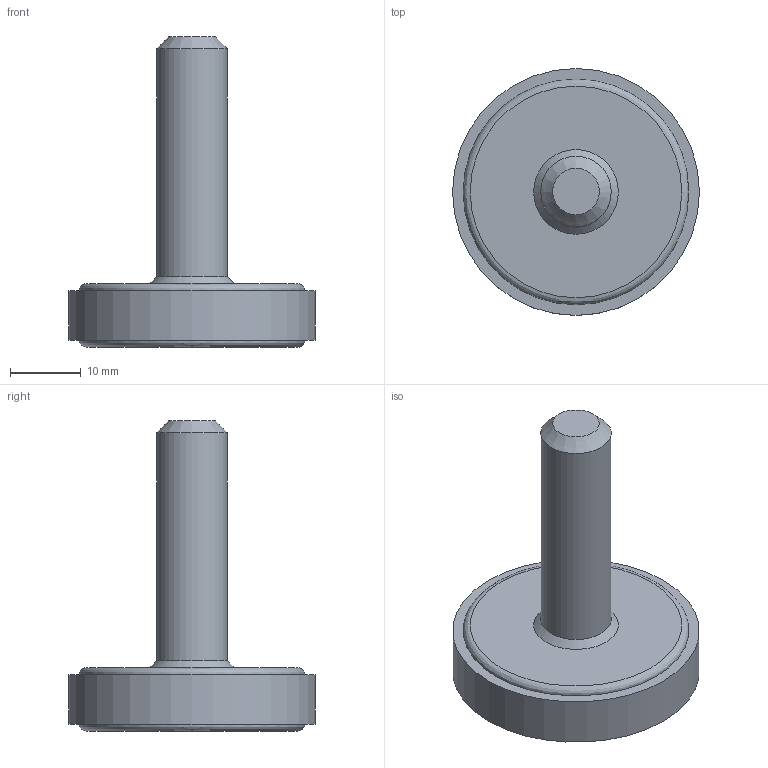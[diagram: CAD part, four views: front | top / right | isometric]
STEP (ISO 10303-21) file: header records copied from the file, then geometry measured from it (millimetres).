
FILE_DESCRIPTION(('STEP AP203'),'2;1');
FILE_NAME('30460.stp','2015-09-09T09:09:50',(''),(''),'2008.1.107','THINKDESIGN','');
FILE_SCHEMA(('CONFIG_CONTROL_DESIGN'));
Length unit declared in the file: millimetre
Bounding box: 35 x 35 x 44 mm (x, y, z)
Volume: 10983.4 mm3; surface area: 4144.8 mm2
Topology: 2 solids, 2 shells, 26 faces, 65 edges, 46 vertices
Faces by surface type: plane 15, cylinder 7, bspline 4
Full cylindrical faces by diameter (mm): 10 x1, 35 x1
Entity records: 1554 total; most frequent: CARTESIAN_POINT 807, DIRECTION 141, ORIENTED_EDGE 130, EDGE_CURVE 65, AXIS2_PLACEMENT_3D 54, VERTEX_POINT 46, VECTOR 33, LINE 33
